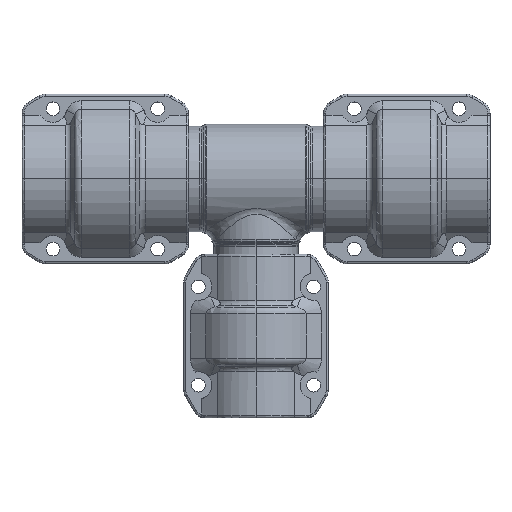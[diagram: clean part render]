
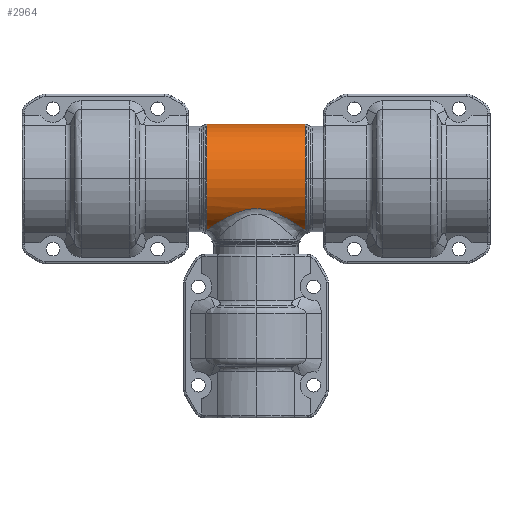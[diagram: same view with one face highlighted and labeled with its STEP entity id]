
A CAD part, top view. The second image highlights one B-rep face of the part: STEP entity #2964.
In plain terms, the highlighted cylindrical face has radius 26.1 mm (diameter 52.2 mm), a partial arc.
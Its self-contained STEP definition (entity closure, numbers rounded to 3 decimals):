
#902=B_SPLINE_CURVE_WITH_KNOTS('',3,(#40777,#40778,#40779,#40780,#40781,
#40782,#40783,#40784,#40785,#40786,#40787,#40788,#40789,#40790,#40791,#40792,
#40793,#40794,#40795,#40796,#40797,#40798,#40799,#40800,#40801,#40802,#40803,
#40804),.UNSPECIFIED.,.F.,.F.,(4,2,2,2,2,2,2,2,2,2,2,2,2,4),(0.,0.125,
0.187,0.219,0.234,0.25,
0.5,0.625,0.688,0.719,0.734,0.75,0.875,
1.),.UNSPECIFIED.);
#903=B_SPLINE_CURVE_WITH_KNOTS('',3,(#40809,#40810,#40811,#40812,#40813,
#40814,#40815,#40816,#40817,#40818,#40819,#40820,#40821,#40822,#40823,#40824,
#40825,#40826,#40827,#40828,#40829,#40830,#40831,#40832,#40833,#40834,#40835,
#40836,#40837,#40838,#40839,#40840,#40841,#40842,#40843,#40844,#40845,#40846,
#40847,#40848),.UNSPECIFIED.,.F.,.F.,(4,2,2,2,2,2,2,2,2,2,2,2,2,2,2,2,2,
2,2,4),(0.,0.062,0.094,0.109,0.125,0.188,0.219,
0.234,0.25,0.5,0.625,0.688,0.719,
0.734,0.75,0.813,0.844,
0.859,0.875,1.),.UNSPECIFIED.);
#2964=ADVANCED_FACE('',(#5483),#4847,.T.);
#4847=CYLINDRICAL_SURFACE('',#29653,26.1);
#5483=FACE_OUTER_BOUND('',#7338,.T.);
#7338=EDGE_LOOP('',(#10989,#10990,#10991,#10992,#10993,#10994,#10995,#10996));
#9307=CIRCLE('',#29646,26.1);
#9308=CIRCLE('',#29648,26.1);
#9309=CIRCLE('',#29649,26.1);
#9310=CIRCLE('',#29650,26.1);
#9311=CIRCLE('',#29651,26.1);
#9312=CIRCLE('',#29652,26.1);
#10989=ORIENTED_EDGE('',*,*,#22492,.F.);
#10990=ORIENTED_EDGE('',*,*,#22493,.T.);
#10991=ORIENTED_EDGE('',*,*,#22494,.F.);
#10992=ORIENTED_EDGE('',*,*,#22491,.F.);
#10993=ORIENTED_EDGE('',*,*,#22495,.F.);
#10994=ORIENTED_EDGE('',*,*,#22496,.T.);
#10995=ORIENTED_EDGE('',*,*,#22497,.F.);
#10996=ORIENTED_EDGE('',*,*,#22498,.F.);
#19881=VERTEX_POINT('',#40769);
#19882=VERTEX_POINT('',#40771);
#19883=VERTEX_POINT('',#40775);
#19884=VERTEX_POINT('',#40776);
#19885=VERTEX_POINT('',#40805);
#19886=VERTEX_POINT('',#40808);
#19887=VERTEX_POINT('',#40849);
#19888=VERTEX_POINT('',#40851);
#22491=EDGE_CURVE('',#19882,#19881,#9307,.T.);
#22492=EDGE_CURVE('',#19883,#19884,#9308,.T.);
#22493=EDGE_CURVE('',#19883,#19885,#902,.T.);
#22494=EDGE_CURVE('',#19881,#19885,#9309,.T.);
#22495=EDGE_CURVE('',#19886,#19882,#9310,.T.);
#22496=EDGE_CURVE('',#19886,#19887,#903,.T.);
#22497=EDGE_CURVE('',#19888,#19887,#9311,.T.);
#22498=EDGE_CURVE('',#19884,#19888,#9312,.T.);
#29646=AXIS2_PLACEMENT_3D('',#40772,#32941,#32942);
#29648=AXIS2_PLACEMENT_3D('',#40774,#32945,#32946);
#29649=AXIS2_PLACEMENT_3D('',#40806,#32947,#32948);
#29650=AXIS2_PLACEMENT_3D('',#40807,#32949,#32950);
#29651=AXIS2_PLACEMENT_3D('',#40850,#32951,#32952);
#29652=AXIS2_PLACEMENT_3D('',#40852,#32953,#32954);
#29653=AXIS2_PLACEMENT_3D('',#40853,#32955,#32956);
#32941=DIRECTION('',(1.,0.,0.));
#32942=DIRECTION('',(0.,0.,-1.));
#32945=DIRECTION('',(-1.,0.,0.));
#32946=DIRECTION('',(0.,-0.929,0.371));
#32947=DIRECTION('',(1.,0.,0.));
#32948=DIRECTION('',(0.,0.,1.));
#32949=DIRECTION('',(1.,0.,0.));
#32950=DIRECTION('',(0.,-0.929,-0.371));
#32951=DIRECTION('',(-1.,0.,0.));
#32952=DIRECTION('',(0.,0.,-1.));
#32953=DIRECTION('',(-1.,0.,0.));
#32954=DIRECTION('',(0.,0.,1.));
#32955=DIRECTION('',(-1.,0.,0.));
#32956=DIRECTION('',(0.,0.,1.));
#40769=CARTESIAN_POINT('',(92.912,73.302,-0.95));
#40771=CARTESIAN_POINT('',(92.912,73.302,-53.15));
#40772=CARTESIAN_POINT('',(92.912,73.302,-27.05));
#40774=CARTESIAN_POINT('',(46.086,73.302,-27.05));
#40775=CARTESIAN_POINT('',(46.086,49.063,-17.37));
#40776=CARTESIAN_POINT('',(46.086,73.302,-0.95));
#40777=CARTESIAN_POINT('',(46.086,49.063,-17.37));
#40778=CARTESIAN_POINT('',(47.101,49.788,-15.555));
#40779=CARTESIAN_POINT('',(48.62,50.771,-13.707));
#40780=CARTESIAN_POINT('',(51.525,52.6,-11.12));
#40781=CARTESIAN_POINT('',(52.554,53.227,-10.344));
#40782=CARTESIAN_POINT('',(54.186,54.163,-9.298));
#40783=CARTESIAN_POINT('',(54.745,54.474,-8.969));
#40784=CARTESIAN_POINT('',(55.606,54.937,-8.503));
#40785=CARTESIAN_POINT('',(55.897,55.09,-8.353));
#40786=CARTESIAN_POINT('',(56.486,55.395,-8.06));
#40787=CARTESIAN_POINT('',(56.821,55.565,-7.902));
#40788=CARTESIAN_POINT('',(61.332,57.812,-5.849));
#40789=CARTESIAN_POINT('',(65.451,59.098,-5.154));
#40790=CARTESIAN_POINT('',(71.454,59.113,-5.144));
#40791=CARTESIAN_POINT('',(73.49,58.811,-5.331));
#40792=CARTESIAN_POINT('',(76.595,57.935,-5.95));
#40793=CARTESIAN_POINT('',(77.639,57.574,-6.214));
#40794=CARTESIAN_POINT('',(79.218,56.94,-6.714));
#40795=CARTESIAN_POINT('',(79.747,56.714,-6.897));
#40796=CARTESIAN_POINT('',(80.543,56.354,-7.201));
#40797=CARTESIAN_POINT('',(80.809,56.23,-7.307));
#40798=CARTESIAN_POINT('',(81.341,55.977,-7.529));
#40799=CARTESIAN_POINT('',(81.575,55.864,-7.629));
#40800=CARTESIAN_POINT('',(84.285,54.52,-8.855));
#40801=CARTESIAN_POINT('',(86.474,53.226,-10.234));
#40802=CARTESIAN_POINT('',(90.411,50.753,-13.733));
#40803=CARTESIAN_POINT('',(91.901,49.788,-15.556));
#40804=CARTESIAN_POINT('',(92.912,49.063,-17.37));
#40805=CARTESIAN_POINT('',(92.912,49.063,-17.37));
#40806=CARTESIAN_POINT('',(92.912,73.302,-27.05));
#40807=CARTESIAN_POINT('',(92.912,73.302,-27.05));
#40808=CARTESIAN_POINT('',(92.912,49.063,-36.73));
#40809=CARTESIAN_POINT('',(92.912,49.063,-36.73));
#40810=CARTESIAN_POINT('',(92.365,49.436,-37.663));
#40811=CARTESIAN_POINT('',(91.741,49.857,-38.56));
#40812=CARTESIAN_POINT('',(90.69,50.551,-39.849));
#40813=CARTESIAN_POINT('',(90.32,50.792,-40.269));
#40814=CARTESIAN_POINT('',(89.737,51.169,-40.884));
#40815=CARTESIAN_POINT('',(89.538,51.297,-41.087));
#40816=CARTESIAN_POINT('',(89.13,51.557,-41.486));
#40817=CARTESIAN_POINT('',(88.952,51.67,-41.656));
#40818=CARTESIAN_POINT('',(87.731,52.44,-42.771));
#40819=CARTESIAN_POINT('',(86.697,53.074,-43.571));
#40820=CARTESIAN_POINT('',(85.063,54.02,-44.647));
#40821=CARTESIAN_POINT('',(84.504,54.335,-44.984));
#40822=CARTESIAN_POINT('',(83.645,54.801,-45.462));
#40823=CARTESIAN_POINT('',(83.355,54.956,-45.616));
#40824=CARTESIAN_POINT('',(82.769,55.264,-45.915));
#40825=CARTESIAN_POINT('',(82.444,55.43,-46.072));
#40826=CARTESIAN_POINT('',(77.812,57.765,-48.234));
#40827=CARTESIAN_POINT('',(73.571,59.109,-48.954));
#40828=CARTESIAN_POINT('',(67.452,59.109,-48.954));
#40829=CARTESIAN_POINT('',(65.376,58.79,-48.757));
#40830=CARTESIAN_POINT('',(62.209,57.874,-48.105));
#40831=CARTESIAN_POINT('',(61.144,57.496,-47.828));
#40832=CARTESIAN_POINT('',(59.533,56.836,-47.303));
#40833=CARTESIAN_POINT('',(58.993,56.601,-47.11));
#40834=CARTESIAN_POINT('',(58.181,56.227,-46.79));
#40835=CARTESIAN_POINT('',(57.91,56.099,-46.679));
#40836=CARTESIAN_POINT('',(57.366,55.836,-46.445));
#40837=CARTESIAN_POINT('',(57.12,55.715,-46.336));
#40838=CARTESIAN_POINT('',(55.622,54.96,-45.637));
#40839=CARTESIAN_POINT('',(54.477,54.334,-45.004));
#40840=CARTESIAN_POINT('',(52.842,53.387,-43.927));
#40841=CARTESIAN_POINT('',(52.31,53.07,-43.547));
#40842=CARTESIAN_POINT('',(51.533,52.597,-42.943));
#40843=CARTESIAN_POINT('',(51.277,52.44,-42.736));
#40844=CARTESIAN_POINT('',(50.773,52.127,-42.311));
#40845=CARTESIAN_POINT('',(50.491,51.95,-42.062));
#40846=CARTESIAN_POINT('',(48.582,50.748,-40.319));
#40847=CARTESIAN_POINT('',(47.184,49.81,-38.599));
#40848=CARTESIAN_POINT('',(46.086,49.063,-36.73));
#40849=CARTESIAN_POINT('',(46.086,49.063,-36.73));
#40850=CARTESIAN_POINT('',(46.086,73.302,-27.05));
#40851=CARTESIAN_POINT('',(46.086,73.302,-53.15));
#40852=CARTESIAN_POINT('',(46.086,73.302,-27.05));
#40853=CARTESIAN_POINT('',(154.555,73.302,-27.05));
